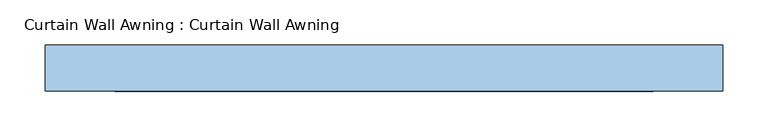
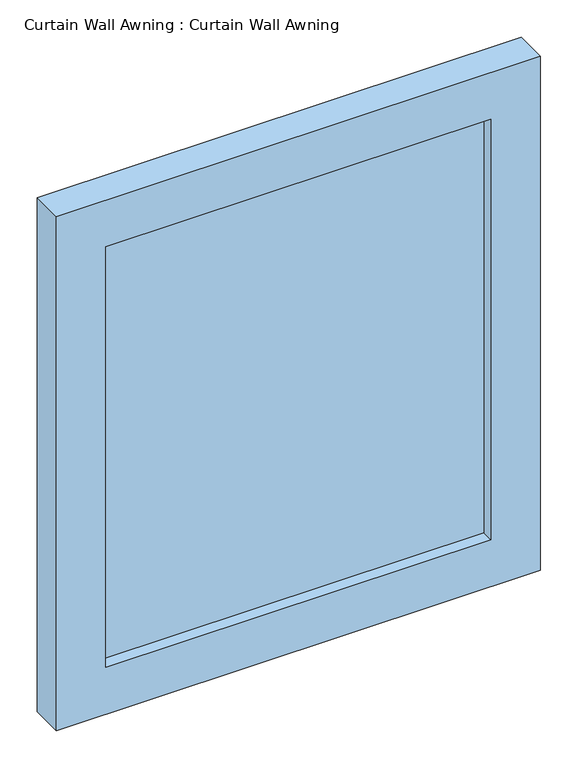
"""IFC4 building model written with IfcOpenShell, lengths in millimetres: window geometry, Curtain Wall Awning : Curtain Wall Awning."""

from ifc_helpers import new_model, si_unit, frame, origin, place, context, project, spatial, polyline, outline, extrude, source, transform, mapped, element, save


def curtain_wall_awning_curtain_wall_awning_735e1d72(model_context):
    return source(origin(), model_context, "Body", "SweptSolid", [
        extrude(outline(polyline([(296.8821699, 44.45), (-296.8821699, 44.45), (-296.8821699, 57.15), (296.8821699, 57.15), (296.8821699, 44.45)])), frame((0.0, 0.0, 76.2), z_axis=(0.0, 0.0, 1.0), x_axis=(1.0, 0.0, 0.0)), (0.0, 0.0, 1.0), 685.6),
        extrude(outline(polyline([(838.0, -373.0821699), (0.0, -373.0821699), (0.0, 373.0821699), (838.0, 373.0821699), (838.0, -373.0821699)]), holes=[polyline([(761.8, -296.8821699), (761.8, 296.8821699), (76.2, 296.8821699), (76.2, -296.8821699), (761.8, -296.8821699)])]), frame((0.0, 25.4, 0.0), z_axis=(0.0, 1.0, 0.0), x_axis=(0.0, 0.0, 1.0)), (0.0, 0.0, 1.0), 50.8),
    ])


if __name__ == "__main__":
    model = new_model("IFC4")
    model_context = context("Model", 3, world=origin())
    ifc_project = project(units=[si_unit("LENGTHUNIT", "METRE", prefix="MILLI")], contexts=[model_context])
    site = spatial("IfcSite", under=ifc_project)
    building = spatial("IfcBuilding", under=site)
    placement = place(None, origin())
    curtain_wall_awning_curtain_wall_awning_shape = curtain_wall_awning_curtain_wall_awning_735e1d72(model_context)
    element("IfcWindow", 1, ObjectType="Curtain Wall Awning : Curtain Wall Awning", at=placement, inside=building, context=model_context, shape_type="MappedRepresentation", body=[
        mapped(curtain_wall_awning_curtain_wall_awning_shape, transform((0.0, 0.0, 0.0), x_axis=(1.0, 0.0, 0.0), y_axis=(0.0, 1.0, 0.0), z_axis=(0.0, 0.0, 1.0))),
    ])
    save(model, "model.ifc")
